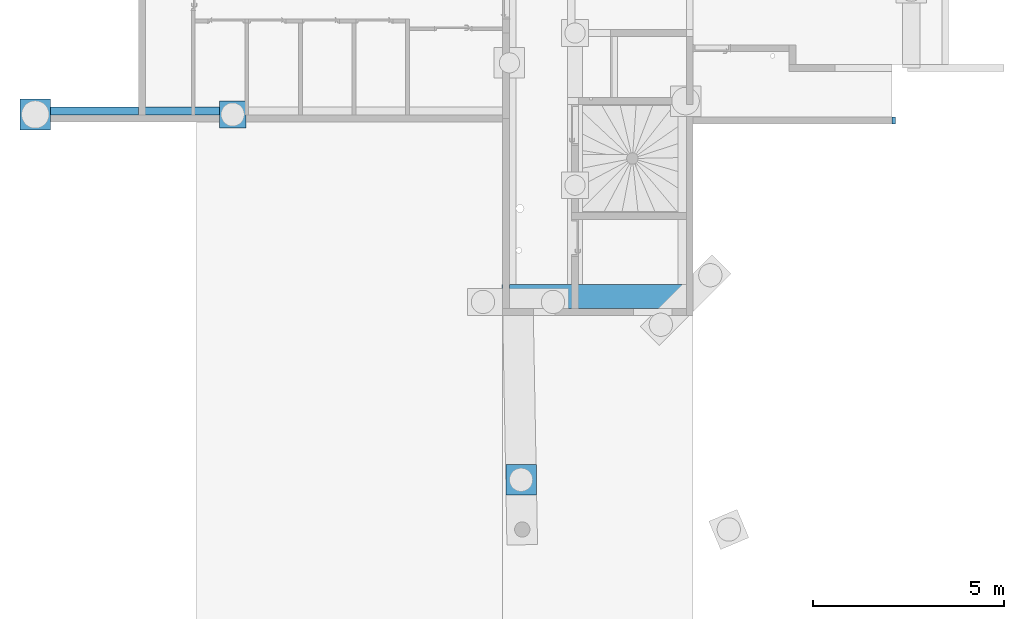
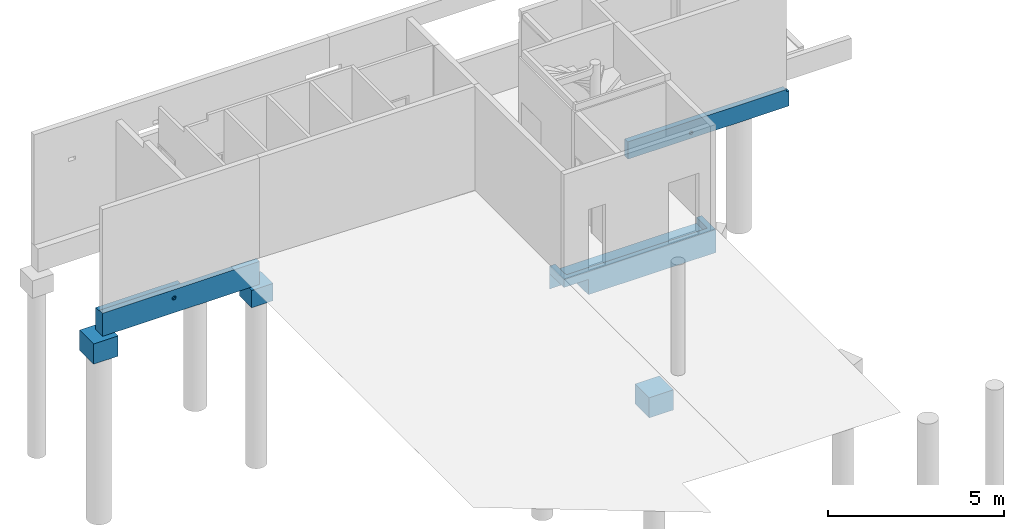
# One storey, part 9 of 14: 3 beams, 3 slabs.
"""IFC2X3 building model written with IfcOpenShell, lengths in centimetres."""

from ifc_helpers import new_model, entity, si_unit, converted_unit, derived_unit, direction, frame, origin, place, context, subcontext, project, spatial, faceted_brep, material, material_list, type_object, element, save


model = new_model("IFC2X3")

# Units and contexts
model_context = context("Model", 3, precision=0.001, world=origin(), true_north=direction((6.12303176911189e-17, 1.0)))
body_context = subcontext(model_context, "Body", "Model", "MODEL_VIEW")
ifc_project = project(units=[si_unit("LENGTHUNIT", "METRE", prefix="CENTI"), si_unit("AREAUNIT", "SQUARE_METRE"), si_unit("VOLUMEUNIT", "CUBIC_METRE"), converted_unit("PLANEANGLEUNIT", "DEGREE", entity("IfcRatioMeasure", 0.0174532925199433), si_unit("PLANEANGLEUNIT", "RADIAN"), dimensions=[0, 0, 0, 0, 0, 0, 0]), si_unit("MASSUNIT", "GRAM", prefix="KILO"), derived_unit("MASSDENSITYUNIT", [(si_unit("MASSUNIT", "GRAM", prefix="KILO"), 1), (si_unit("LENGTHUNIT", "METRE"), -3)]), si_unit("TIMEUNIT", "SECOND"), si_unit("FREQUENCYUNIT", "HERTZ"), si_unit("THERMODYNAMICTEMPERATUREUNIT", "DEGREE_CELSIUS"), derived_unit("THERMALTRANSMITTANCEUNIT", [(si_unit("MASSUNIT", "GRAM", prefix="KILO"), 1), (si_unit("THERMODYNAMICTEMPERATUREUNIT", "KELVIN"), -1), (si_unit("TIMEUNIT", "SECOND"), -3)]), derived_unit("VOLUMETRICFLOWRATEUNIT", [(si_unit("LENGTHUNIT", "METRE"), 3), (si_unit("TIMEUNIT", "SECOND"), -1)]), si_unit("ELECTRICCURRENTUNIT", "AMPERE"), si_unit("ELECTRICVOLTAGEUNIT", "VOLT"), si_unit("POWERUNIT", "WATT"), si_unit("FORCEUNIT", "NEWTON"), si_unit("ILLUMINANCEUNIT", "LUX"), si_unit("LUMINOUSFLUXUNIT", "LUMEN"), si_unit("LUMINOUSINTENSITYUNIT", "CANDELA"), derived_unit("USERDEFINED", [(si_unit("MASSUNIT", "GRAM", prefix="KILO"), -1), (si_unit("LENGTHUNIT", "METRE"), -2), (si_unit("TIMEUNIT", "SECOND"), 3), (si_unit("LUMINOUSFLUXUNIT", "LUMEN"), 1)]), derived_unit("LINEARVELOCITYUNIT", [(si_unit("LENGTHUNIT", "METRE"), 1), (si_unit("TIMEUNIT", "SECOND"), -1)]), si_unit("PRESSUREUNIT", "PASCAL"), derived_unit("USERDEFINED", [(si_unit("LENGTHUNIT", "METRE"), -2), (si_unit("MASSUNIT", "GRAM", prefix="KILO"), 1), (si_unit("TIMEUNIT", "SECOND"), -2)])], contexts=[model_context])

# Site, building, storey
site_placement = place(None, origin())
site = spatial("IfcSite", under=ifc_project, at=site_placement, Name="Default", CompositionType="ELEMENT")
building_placement = place(site_placement, origin())
building = spatial("IfcBuilding", under=site, at=building_placement, Name="CAGE 03", CompositionType="ELEMENT")
storey_placement = place(building_placement, frame((0.0, 0.0, -42.0)))
storey = spatial("IfcBuildingStorey", under=building, at=storey_placement, Name="+3.58", CompositionType="ELEMENT", Elevation=-42.0000000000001)

# Beams
ifc_material_1 = material(Name="Béton, C25/30")
ifc_material_2 = material(Name="<Unnamed>")
ifc_material_list = material_list([ifc_material_1, ifc_material_2])
beam_type_1 = type_object("IfcBeamType", Name="40x80ht", PredefinedType="BEAM", material=ifc_material_list)
beam_1_placement = place(storey_placement, frame((8789.36582014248, 4886.66066607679, -80.0)))
element("IfcBeam", 1, at=beam_1_placement, inside=storey, type_object=beam_type_1, material=ifc_material_1, Name="BBGO-Poutre rect:40x80ht", ObjectType="BBGO-Poutre rect:40x80ht", context=body_context, shape_type="Brep", body=[
    faceted_brep([(0.0, 40.0, 0.0), (0.0, 0.0, 0.0), (0.0, 0.0, 80.0), (0.0, 18.0, 80.0), (0.0, 18.0, 76.0), (0.0, 40.0, 76.0), (515.0, 0.0, 80.0), (241.246504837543, 0.0, 51.074862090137), (515.0, 0.0, 0.0), (240.980083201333, 0.0, 52.4142541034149), (240.713661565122, 0.0, 53.7536461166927), (239.954956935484, 0.0, 54.8891278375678), (239.196252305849, 0.0, 56.0246095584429), (238.060770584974, 0.0, 56.7833141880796), (236.925288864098, 0.0, 57.542018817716), (235.58589685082, 0.0, 57.8084404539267), (234.246504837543, 0.0, 58.074862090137), (232.907112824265, 0.0, 57.8084404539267), (231.567720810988, 0.0, 57.542018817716), (230.432239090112, 0.0, 56.7833141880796), (229.296757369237, 0.0, 56.0246095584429), (228.538052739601, 0.0, 54.8891278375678), (227.779348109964, 0.0, 53.7536461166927), (227.592423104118, 0.0, 52.8139106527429), (227.246504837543, 0.0, 51.074862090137), (234.246504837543, 0.0, 44.074862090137), (232.907112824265, 0.0, 44.3412837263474), (227.512926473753, 0.0, 49.7354700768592), (227.779348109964, 0.0, 48.3960780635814), (228.538052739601, 0.0, 47.2605963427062), (229.296757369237, 0.0, 46.1251146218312), (230.432239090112, 0.0, 45.3664099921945), (231.567720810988, 0.0, 44.607705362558), (240.980083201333, 0.0, 49.7354700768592), (240.713661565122, 0.0, 48.3960780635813), (239.954956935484, 0.0, 47.2605963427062), (239.196252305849, 0.0, 46.1251146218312), (238.060770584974, 0.0, 45.3664099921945), (236.925288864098, 0.0, 44.607705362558), (235.58589685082, 0.0, 44.3412837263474), (515.0, 40.0, 0.0), (269.0, 40.0, 60.0), (240.713661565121, 40.0, 48.3960780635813), (240.980083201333, 40.0, 49.7354700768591), (241.246504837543, 40.0, 51.074862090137), (240.90058659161, 40.0, 52.8139105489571), (239.954956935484, 40.0, 47.2605963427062), (239.196252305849, 40.0, 46.1251146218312), (238.060770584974, 40.0, 45.3664099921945), (236.925288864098, 40.0, 44.607705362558), (515.0, 40.0, 60.0), (240.713661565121, 40.0, 53.7536461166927), (239.954956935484, 40.0, 54.8891278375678), (239.196252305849, 40.0, 56.0246095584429), (269.0, 40.0, 76.0), (235.58589685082, 40.0, 44.3412837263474), (234.246504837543, 40.0, 44.074862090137), (232.907112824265, 40.0, 44.3412837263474), (231.567720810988, 40.0, 44.607705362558), (230.432239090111, 40.0, 45.3664099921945), (229.296757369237, 40.0, 46.1251146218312), (228.538052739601, 40.0, 47.2605963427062), (227.779348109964, 40.0, 48.3960780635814), (227.592423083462, 40.0, 49.3358136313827), (227.246504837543, 40.0, 51.0748620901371), (231.567720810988, 40.0, 57.542018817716), (230.432239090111, 40.0, 56.7833141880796), (229.296757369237, 40.0, 56.0246095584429), (228.5380527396, 40.0, 54.8891278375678), (227.512926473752, 40.0, 52.4142541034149), (227.779348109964, 40.0, 53.7536461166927), (238.060770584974, 40.0, 56.7833141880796), (236.925288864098, 40.0, 57.542018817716), (235.58589685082, 40.0, 57.8084404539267), (234.246504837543, 40.0, 58.074862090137), (232.907112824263, 40.0, 57.8084404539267), (515.0, 18.0, 80.0), (269.0, 18.0, 80.0), (269.0, 18.0, 60.0), (515.0, 18.0, 60.0), (269.0, 18.0, 76.0)], [[[0, 1, 2, 3, 4, 5]], [[6, 7, 8]], [[6, 9, 7]], [[6, 10, 9]], [[6, 11, 10]], [[6, 12, 11]], [[6, 13, 12]], [[6, 14, 13]], [[6, 15, 14]], [[6, 16, 15]], [[16, 6, 2]], [[2, 17, 16]], [[2, 18, 17]], [[2, 19, 18]], [[2, 20, 19]], [[2, 21, 20]], [[2, 22, 21]], [[2, 23, 22]], [[2, 24, 23]], [[1, 24, 2]], [[8, 25, 1]], [[1, 25, 26]], [[1, 27, 24]], [[1, 28, 27]], [[1, 29, 28]], [[1, 30, 29]], [[1, 31, 30]], [[1, 32, 31]], [[1, 26, 32]], [[8, 7, 33]], [[8, 33, 34]], [[8, 34, 35]], [[8, 35, 36]], [[8, 36, 37]], [[8, 37, 38]], [[8, 38, 39]], [[8, 39, 25]], [[40, 8, 1, 0]], [[41, 42, 43]], [[41, 43, 44]], [[41, 44, 45]], [[41, 46, 42]], [[41, 47, 46]], [[41, 48, 47]], [[41, 49, 48]], [[40, 49, 41]], [[50, 40, 41]], [[41, 45, 51]], [[41, 51, 52]], [[41, 52, 53]], [[54, 41, 53]], [[40, 55, 49]], [[40, 56, 55]], [[56, 40, 0]], [[0, 57, 56]], [[0, 58, 57]], [[0, 59, 58]], [[0, 60, 59]], [[0, 61, 60]], [[0, 62, 61]], [[0, 63, 62]], [[0, 64, 63]], [[5, 64, 0]], [[65, 5, 54]], [[5, 65, 66]], [[5, 66, 67]], [[5, 67, 68]], [[5, 69, 64]], [[5, 70, 69]], [[5, 68, 70]], [[54, 53, 71]], [[54, 71, 72]], [[54, 72, 73]], [[54, 73, 74]], [[54, 74, 75]], [[54, 75, 65]], [[6, 76, 77, 3, 2]], [[78, 79, 50, 41]], [[78, 80, 4, 3, 77, 76, 79]], [[80, 78, 41, 54]], [[76, 6, 8, 40, 50, 79]], [[36, 35, 34, 42, 46, 47]], [[37, 36, 47, 48, 49, 38]], [[26, 25, 56, 57, 58, 32]], [[39, 38, 49, 55, 56, 25]], [[34, 33, 7, 44, 43, 42]], [[31, 32, 58, 59, 60, 30]], [[27, 28, 62, 63, 64, 24]], [[29, 30, 60, 61, 62, 28]], [[19, 20, 67, 66, 65, 18]], [[15, 16, 74, 73, 72, 14]], [[17, 18, 65, 75, 74, 16]], [[69, 70, 22, 23, 24, 64]], [[68, 67, 20, 21, 22, 70]], [[13, 14, 72, 71, 53, 12]], [[9, 10, 51, 45, 44, 7]], [[11, 12, 53, 52, 51, 10]], [[4, 80, 54, 5]]]),
])
beam_type_2 = type_object("IfcBeamType", Name="BBGO-Poutre rect:80x80ht", PredefinedType="BEAM")
beam_2_placement = place(storey_placement, frame((10008.8991534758, 4381.66066607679, -85.0)))
element("IfcBeam", 2, at=beam_2_placement, inside=storey, type_object=beam_type_2, material=ifc_material_1, Name="BBGO-Poutre rect:80x80ht", ObjectType="BBGO-Poutre rect:80x80ht", context=body_context, shape_type="Brep", body=[
    faceted_brep([(499.46666666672, 0.0, 80.0), (499.46666666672, 0.0, 0.0), (499.46666666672, 80.0, 0.0), (499.46666666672, 80.0, 80.0), (481.466666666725, 0.0, 80.0), (1.46666666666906, 0.0, 80.0), (1.46666666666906, 0.0, 53.0), (81.4801099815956, 0.0, 53.0), (81.4801099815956, 0.0, 0.0), (80.0134433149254, 80.0, 0.0), (170.466666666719, 80.0, 0.0), (210.466666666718, 80.0, 0.0), (459.466666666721, 80.0, 0.0), (80.0134433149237, 80.0, 53.0), (40.0067216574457, 80.0, 53.0), (40.0067216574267, 80.0, 0.0), (36.4666666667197, 80.0, 0.0), (1.46666666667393, 80.0, 0.0), (0.0, 80.0, 0.0), (0.0, 80.0, 80.0), (1.46666666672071, 80.0, 80.0), (19.4666666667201, 80.0, 80.0), (19.4666666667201, 80.0, 60.0), (36.4666666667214, 80.0, 60.0), (170.466666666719, 80.0, 60.0), (210.466666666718, 80.0, 60.0), (459.466666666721, 80.0, 60.0), (481.466666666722, 80.0, 60.0), (481.466666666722, 80.0, 80.0), (481.466666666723, 18.0, 80.0), (19.4666666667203, 18.0, 80.0), (19.4666666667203, 18.0, 60.0), (481.466666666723, 18.0, 60.0), (0.0134421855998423, 79.2667898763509, 0.0), (0.0134421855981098, 79.2667898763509, 53.0)], [[[0, 1, 2, 3]], [[1, 0, 4, 5, 6, 7, 8]], [[2, 1, 8, 9, 10, 11, 12]], [[3, 2, 12, 11, 10, 9, 13, 14, 15, 16, 17, 18, 19, 20, 21, 22, 23, 24, 25, 26, 27, 28]], [[0, 3, 28, 29, 30, 21, 20, 19, 5, 4]], [[31, 32, 27, 26, 25, 24, 23, 22]], [[32, 29, 28, 27]], [[32, 31, 30, 29]], [[30, 31, 22, 21]], [[5, 19, 18, 33, 34, 6]], [[14, 34, 33, 15]], [[7, 13, 9, 8]], [[34, 14, 13, 7, 6]], [[33, 18, 17, 16, 15]]]),
])
beam_type_3 = type_object("IfcBeamType", Name="BBGO-Poutre rect:18x60ht", PredefinedType="BEAM")
beam_3_placement = place(storey_placement, frame((10508.3658201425, 4881.66066607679, -65.0)))
element("IfcBeam", 3, at=beam_3_placement, inside=storey, type_object=beam_type_3, material=ifc_material_1, Name="BBGO-Poutre rect:18x60ht", ObjectType="BBGO-Poutre rect:18x60ht", context=body_context, shape_type="Brep", body=[
    faceted_brep([(520.0, 0.0, 60.0), (211.517362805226, 0.0, 24.1664467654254), (212.384484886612, 0.0, 23.0791100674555), (213.251606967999, 0.0, 21.991773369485), (520.0, 0.0, 52.0), (210.264335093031, 0.0, 24.7698731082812), (209.011307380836, 0.0, 25.3732994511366), (0.0, 0.0, 60.0), (207.620551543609, 0.0, 25.3732994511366), (206.229795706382, 0.0, 25.3732994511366), (204.976767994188, 0.0, 24.7698731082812), (203.723740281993, 0.0, 24.1664467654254), (202.856618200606, 0.0, 23.0791100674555), (201.98949611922, 0.0, 21.9917733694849), (201.739684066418, 0.0, 20.8972752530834), (201.37055154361, 0.0, 19.2800000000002), (0.0, 0.0, 0.0), (201.680023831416, 0.0, 17.9241133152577), (201.98949611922, 0.0, 16.5682266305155), (202.856618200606, 0.0, 15.4808899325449), (203.723740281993, 0.0, 14.393553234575), (204.976767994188, 0.0, 13.7901268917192), (206.229795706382, 0.0, 13.1867005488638), (207.620551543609, 0.0, 13.1867005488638), (209.011307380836, 0.0, 13.1867005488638), (520.0, 0.0, 0.0), (529.0, 0.0, 52.0), (213.870551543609, 0.0, 19.2800000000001), (213.501419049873, 0.0, 17.6627248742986), (529.0, 0.0, 0.0), (213.251606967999, 0.0, 16.5682266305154), (212.384484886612, 0.0, 15.4808899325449), (211.517362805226, 0.0, 14.393553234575), (210.264335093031, 0.0, 13.7901268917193), (213.561079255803, 0.0, 20.6358866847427), (520.0, 18.0, 0.0), (529.0, 18.0, 0.0), (0.0, 18.0, 0.0), (520.0, 18.0, 52.0), (213.870551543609, 18.0, 19.2800000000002), (213.501419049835, 18.0, 20.8972751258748), (529.0, 18.0, 52.0), (213.251606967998, 18.0, 21.991773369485), (520.0, 18.0, 60.0), (213.561079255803, 18.0, 17.9241133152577), (213.251606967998, 18.0, 16.5682266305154), (212.384484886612, 18.0, 15.4808899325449), (211.517362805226, 18.0, 14.393553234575), (210.264335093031, 18.0, 13.7901268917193), (209.011307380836, 18.0, 13.1867005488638), (207.620551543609, 18.0, 13.1867005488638), (206.229795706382, 18.0, 13.1867005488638), (204.976767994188, 18.0, 13.7901268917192), (203.723740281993, 18.0, 14.393553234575), (202.856618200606, 18.0, 15.4808899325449), (201.98949611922, 18.0, 16.5682266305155), (201.739684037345, 18.0, 17.6627248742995), (201.37055154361, 18.0, 19.2800000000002), (0.0, 18.0, 40.0), (201.680023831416, 18.0, 20.6358866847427), (201.98949611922, 18.0, 21.9917733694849), (0.0, 18.0, 60.0), (209.011307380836, 18.0, 25.3732994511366), (207.620551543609, 18.0, 25.3732994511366), (202.856618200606, 18.0, 23.0791100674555), (203.723740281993, 18.0, 24.1664467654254), (204.976767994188, 18.0, 24.7698731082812), (206.229795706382, 18.0, 25.3732994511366), (212.384484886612, 18.0, 23.0791100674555), (211.517362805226, 18.0, 24.1664467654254), (210.264335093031, 18.0, 24.7698731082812)], [[[0, 1, 2]], [[0, 2, 3]], [[4, 0, 3]], [[0, 5, 1]], [[0, 6, 5]], [[0, 7, 6]], [[7, 8, 6]], [[7, 9, 8]], [[7, 10, 9]], [[7, 11, 10]], [[7, 12, 11]], [[7, 13, 12]], [[7, 14, 13]], [[7, 15, 14]], [[7, 16, 15]], [[16, 17, 15]], [[16, 18, 17]], [[16, 19, 18]], [[16, 20, 19]], [[16, 21, 20]], [[16, 22, 21]], [[16, 23, 22]], [[16, 24, 23]], [[25, 24, 16]], [[25, 26, 4]], [[25, 4, 27]], [[25, 27, 28]], [[25, 29, 26]], [[25, 28, 30]], [[25, 30, 31]], [[25, 31, 32]], [[25, 32, 33]], [[25, 33, 24]], [[4, 3, 34]], [[4, 34, 27]], [[35, 36, 29, 25, 16, 37]], [[38, 35, 39]], [[38, 39, 40]], [[38, 41, 35]], [[38, 40, 42]], [[42, 43, 38]], [[41, 36, 35]], [[35, 44, 39]], [[35, 45, 44]], [[35, 46, 45]], [[35, 47, 46]], [[35, 48, 47]], [[35, 49, 48]], [[35, 37, 49]], [[37, 50, 49]], [[37, 51, 50]], [[37, 52, 51]], [[37, 53, 52]], [[37, 54, 53]], [[37, 55, 54]], [[37, 56, 55]], [[37, 57, 56]], [[58, 57, 37]], [[58, 59, 57]], [[58, 60, 59]], [[60, 58, 61]], [[43, 62, 61]], [[61, 62, 63]], [[61, 64, 60]], [[61, 65, 64]], [[61, 66, 65]], [[61, 67, 66]], [[61, 63, 67]], [[43, 42, 68]], [[43, 68, 69]], [[43, 69, 70]], [[43, 70, 62]], [[7, 0, 43, 61]], [[58, 37, 16, 7, 61]], [[0, 4, 38, 43]], [[41, 38, 4, 26]], [[29, 36, 41, 26]], [[28, 27, 39, 44, 45, 30]], [[31, 30, 45, 46, 47, 32]], [[17, 18, 55, 56, 57, 15]], [[33, 32, 47, 48, 49, 24]], [[22, 23, 24, 49, 50, 51]], [[21, 22, 51, 52, 53, 20]], [[54, 55, 18, 19, 20, 53]], [[13, 14, 15, 57, 59, 60]], [[64, 65, 11, 12, 13, 60]], [[66, 67, 9, 10, 11, 65]], [[6, 8, 9, 67, 63, 62]], [[5, 6, 62, 70, 69, 1]], [[34, 3, 42, 40, 39, 27]], [[2, 1, 69, 68, 42, 3]]]),
])

# Slabs
slab_1_placement = place(storey_placement, frame((10018.3658201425, 3911.66066607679, -202.0)))
element("IfcSlab", 4, at=slab_1_placement, inside=storey, material=ifc_material_1, Name="M_Base-Rectangulaire:80x80x70ht", ObjectType="M_Base-Rectangulaire:80x80x70ht", PredefinedType="BASESLAB", context=body_context, shape_type="Brep", body=[
    faceted_brep([(80.0, 80.0, 70.0), (0.0, 80.0, 70.0), (0.0, 0.0, 70.0), (80.0, 0.0, 70.0), (0.0, 0.0, 0.0), (9.50000000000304, 40.0, 0.0), (11.7333107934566, 34.6083107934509, 0.0), (0.0, 80.0, 0.0), (13.9666215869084, 29.216621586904, 0.0), (16.1999323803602, 23.8249323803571, 0.0), (18.4332431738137, 18.4332431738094, 0.0), (23.8249323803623, 16.1999323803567, 0.0), (29.2166215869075, 13.966621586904, 0.0), (34.6083107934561, 11.7333107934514, 0.0), (40.0, 9.49999999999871, 0.0), (80.0, 0.0, 0.0), (11.7333107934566, 45.3916892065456, 0.0), (13.9666215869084, 50.7833784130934, 0.0), (16.1999323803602, 56.1750676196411, 0.0), (18.4332431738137, 61.566756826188, 0.0), (23.8249323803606, 63.8000676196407, 0.0), (29.2166215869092, 66.0333784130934, 0.0), (34.6083107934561, 68.266689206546, 0.0), (40.0, 70.4999999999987, 0.0), (80.0, 80.0, 0.0), (70.500000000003, 40.0, 0.0), (68.2666892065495, 45.3916892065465, 0.0), (66.0333784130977, 50.7833784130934, 0.0), (63.8000676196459, 56.175067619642, 0.0), (61.5667568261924, 61.5667568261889, 0.0), (56.1750676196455, 63.8000676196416, 0.0), (50.7833784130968, 66.0333784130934, 0.0), (45.3916892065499, 68.266689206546, 0.0), (45.3916892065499, 11.7333107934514, 0.0), (50.7833784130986, 13.9666215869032, 0.0), (56.1750676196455, 16.1999323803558, 0.0), (61.5667568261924, 18.4332431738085, 0.0), (63.8000676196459, 23.8249323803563, 0.0), (66.0333784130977, 29.216621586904, 0.0), (68.2666892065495, 34.6083107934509, 0.0), (18.4332431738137, 18.4332431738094, 5.0), (23.8249323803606, 16.1999323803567, 5.0), (29.2166215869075, 13.966621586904, 5.0), (34.6083107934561, 11.7333107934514, 5.0), (40.0, 9.49999999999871, 5.0), (61.5667568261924, 18.4332431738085, 5.0), (63.8000676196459, 23.8249323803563, 5.0), (66.0333784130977, 29.216621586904, 5.0), (67.6573928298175, 33.1373392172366, 5.0), (70.500000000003, 40.0, 5.0), (9.50000000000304, 40.0, 5.0), (12.3426071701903, 33.1373392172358, 5.0), (15.1852143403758, 26.2746784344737, 5.0), (45.3916892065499, 11.7333107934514, 5.0), (50.7833784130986, 13.9666215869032, 5.0), (56.1750676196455, 16.1999323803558, 5.0), (61.5667568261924, 61.566756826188, 5.0), (56.1750676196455, 63.8000676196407, 5.0), (50.7833784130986, 66.0333784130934, 5.0), (45.3916892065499, 68.266689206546, 5.0), (40.0, 70.4999999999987, 5.0), (18.4332431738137, 61.566756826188, 5.0), (16.1999323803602, 56.1750676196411, 5.0), (13.9666215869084, 50.7833784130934, 5.0), (12.3426071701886, 46.8626607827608, 5.0), (67.6573928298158, 46.8626607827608, 5.0), (64.8147856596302, 53.7253215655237, 5.0), (34.6083107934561, 68.266689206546, 5.0), (29.2166215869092, 66.0333784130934, 5.0), (23.8249323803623, 63.8000676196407, 5.0)], [[[0, 1, 2, 3]], [[4, 5, 6]], [[5, 4, 7]], [[4, 6, 8]], [[4, 8, 9]], [[4, 9, 10]], [[4, 10, 11]], [[4, 11, 12]], [[4, 12, 13]], [[4, 13, 14]], [[14, 15, 4]], [[7, 16, 5]], [[7, 17, 16]], [[7, 18, 17]], [[7, 19, 18]], [[7, 20, 19]], [[7, 21, 20]], [[7, 22, 21]], [[7, 23, 22]], [[23, 7, 24]], [[25, 24, 15]], [[24, 25, 26]], [[24, 26, 27]], [[24, 27, 28]], [[24, 28, 29]], [[24, 29, 30]], [[24, 30, 31]], [[24, 31, 32]], [[24, 32, 23]], [[15, 14, 33]], [[15, 33, 34]], [[15, 34, 35]], [[15, 35, 36]], [[15, 36, 37]], [[15, 37, 38]], [[15, 38, 39]], [[15, 39, 25]], [[2, 1, 7, 4]], [[3, 2, 4, 15]], [[0, 3, 15, 24]], [[1, 0, 24, 7]], [[10, 40, 41, 42, 43, 44, 14, 13, 12, 11]], [[39, 38, 37, 36, 45, 46, 47, 48, 49, 25]], [[10, 9, 8, 6, 5, 50, 51, 52, 40]], [[33, 14, 44, 53, 54, 55, 45, 36, 35, 34]], [[29, 56, 57, 58, 59, 60, 23, 32, 31, 30]], [[16, 17, 18, 19, 61, 62, 63, 64, 50, 5]], [[29, 28, 27, 26, 25, 49, 65, 66, 56]], [[22, 23, 60, 67, 68, 69, 61, 19, 20, 21]], [[60, 59, 58, 57, 56, 66, 65, 49, 48, 47, 46, 45, 55, 54, 53, 44, 43, 42, 41, 40, 52, 51, 50, 64, 63, 62, 61, 69, 68, 67]]]),
])
slab_2_placement = place(storey_placement, frame((8748.36582014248, 4866.66066607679, -150.0)))
element("IfcSlab", 5, at=slab_2_placement, inside=storey, material=ifc_material_1, Name="M_Base-Rectangulaire:80x80x70ht", ObjectType="M_Base-Rectangulaire:80x80x70ht", PredefinedType="BASESLAB", context=body_context, shape_type="Brep", body=[
    faceted_brep([(80.0, 80.0, 70.0), (0.0, 80.0, 70.0), (0.0, 60.0, 70.0), (0.0, 20.0, 70.0), (0.0, 0.0, 70.0), (80.0, 0.0, 70.0), (0.0, 0.0, 0.0), (4.0, 40.0, 0.0), (6.34891974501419, 33.9367392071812, 0.0), (0.0, 80.0, 0.0), (8.69783949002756, 27.8734784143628, 0.0), (11.0467592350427, 21.8102176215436, 0.0), (13.395678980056, 15.7469568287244, 0.0), (20.8771744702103, 12.8486100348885, 0.0), (28.3586699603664, 9.95026324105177, 0.0), (35.8401654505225, 7.05191644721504, 0.0), (43.3216609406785, 4.15356965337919, 0.0), (80.0, 0.0, 0.0), (6.34891974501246, 46.0632607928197, 0.0), (8.69783949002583, 52.126521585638, 0.0), (11.0467592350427, 58.1897823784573, 0.0), (13.395678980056, 64.2530431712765, 0.0), (19.2163439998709, 67.1513899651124, 0.0), (25.0370090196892, 70.0497367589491, 0.0), (30.857674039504, 72.948083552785, 0.0), (36.6783390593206, 75.8464303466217, 0.0), (80.0, 80.0, 0.0), (76.0, 40.0, 0.0), (73.6510802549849, 46.0632607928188, 0.0), (71.3021605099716, 52.126521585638, 0.0), (68.9532407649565, 58.1897823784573, 0.0), (66.6043210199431, 64.2530431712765, 0.0), (59.1228255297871, 67.1513899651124, 0.0), (51.641330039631, 70.0497367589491, 0.0), (44.1598345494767, 72.9480835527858, 0.0), (49.1423259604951, 7.05191644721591, 0.0), (54.9629909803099, 9.95026324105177, 0.0), (60.7836560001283, 12.8486100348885, 0.0), (66.6043210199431, 15.7469568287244, 0.0), (68.9532407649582, 21.8102176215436, 0.0), (71.3021605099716, 27.8734784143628, 0.0), (73.6510802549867, 33.9367392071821, 0.0), (66.6043210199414, 15.7469568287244, 5.0), (59.1228255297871, 12.8486100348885, 5.0), (51.641330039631, 9.95026324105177, 5.0), (44.1598345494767, 7.05191644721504, 5.0), (36.6783390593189, 4.15356965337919, 5.0), (30.857674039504, 7.05191644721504, 5.0), (25.0370090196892, 9.95026324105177, 5.0), (19.2163439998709, 12.8486100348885, 5.0), (13.3956789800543, 15.7469568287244, 5.0), (11.0467592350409, 21.8102176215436, 5.0), (8.69783949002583, 27.8734784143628, 5.0), (6.92390641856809, 32.4525275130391, 5.0), (4.0, 40.0, 5.0), (6.92390641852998, 47.5474724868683, 5.0), (8.69783949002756, 52.126521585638, 5.0), (11.0467592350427, 58.1897823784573, 5.0), (13.3956789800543, 64.2530431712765, 5.0), (20.8771744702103, 67.1513899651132, 5.0), (28.3586699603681, 70.0497367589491, 5.0), (35.8401654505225, 72.948083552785, 5.0), (43.3216609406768, 75.8464303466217, 5.0), (49.1423259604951, 72.948083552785, 5.0), (54.9629909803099, 70.0497367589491, 5.0), (60.7836560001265, 67.1513899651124, 5.0), (66.6043210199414, 64.2530431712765, 5.0), (68.9532407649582, 58.1897823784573, 5.0), (71.3021605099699, 52.126521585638, 5.0), (73.0760935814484, 47.5474724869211, 5.0), (76.0, 40.0, 5.0), (73.0760935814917, 32.452527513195, 5.0), (71.3021605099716, 27.8734784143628, 5.0), (68.9532407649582, 21.8102176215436, 5.0)], [[[0, 1, 2, 3, 4, 5]], [[6, 7, 8]], [[7, 6, 9]], [[6, 8, 10]], [[6, 10, 11]], [[6, 11, 12]], [[6, 12, 13]], [[6, 13, 14]], [[6, 14, 15]], [[6, 15, 16]], [[16, 17, 6]], [[9, 18, 7]], [[9, 19, 18]], [[9, 20, 19]], [[9, 21, 20]], [[9, 22, 21]], [[9, 23, 22]], [[9, 24, 23]], [[9, 25, 24]], [[25, 9, 26]], [[27, 26, 17]], [[26, 27, 28]], [[26, 28, 29]], [[26, 29, 30]], [[26, 30, 31]], [[26, 31, 32]], [[26, 32, 33]], [[26, 33, 34]], [[26, 34, 25]], [[17, 16, 35]], [[17, 35, 36]], [[17, 36, 37]], [[17, 37, 38]], [[17, 38, 39]], [[17, 39, 40]], [[17, 40, 41]], [[17, 41, 27]], [[4, 3, 2, 1, 9, 6]], [[5, 4, 6, 17]], [[0, 5, 17, 26]], [[1, 0, 26, 9]], [[42, 43, 44, 45, 46, 47, 48, 49, 50, 51, 52, 53, 54, 55, 56, 57, 58, 59, 60, 61, 62, 63, 64, 65, 66, 67, 68, 69, 70, 71, 72, 73]], [[8, 7, 54, 53, 52, 51, 50, 12, 11, 10]], [[41, 40, 39, 38, 42, 73, 72, 71, 70, 27]], [[50, 49, 12]], [[49, 48, 13]], [[38, 37, 42]], [[44, 35, 45]], [[37, 43, 42]], [[16, 15, 46]], [[14, 13, 48]], [[49, 13, 12]], [[37, 36, 43]], [[43, 36, 44]], [[14, 47, 15]], [[16, 45, 35]], [[44, 36, 35]], [[46, 15, 47]], [[14, 48, 47]], [[16, 46, 45]], [[28, 27, 70, 69, 68, 67, 66, 31, 30, 29]], [[18, 19, 20, 21, 58, 57, 56, 55, 54, 7]], [[66, 65, 31]], [[65, 64, 32]], [[21, 22, 58]], [[60, 24, 61]], [[22, 59, 58]], [[25, 34, 62]], [[33, 32, 64]], [[65, 32, 31]], [[22, 23, 59]], [[59, 23, 60]], [[33, 63, 34]], [[25, 61, 24]], [[60, 23, 24]], [[62, 34, 63]], [[33, 64, 63]], [[25, 62, 61]]]),
])
slab_3_placement = place(storey_placement, frame((9269.36582014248, 4871.66066607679, -140.0)))
element("IfcSlab", 6, at=slab_3_placement, inside=storey, material=ifc_material_1, Name="M_Base-Rectangulaire:70x70x60ht", ObjectType="M_Base-Rectangulaire:70x70x60ht", PredefinedType="BASESLAB", context=body_context, shape_type="Brep", body=[
    faceted_brep([(70.0, 70.0, 60.0), (0.0, 70.0, 60.0), (0.0, 0.0, 60.0), (70.0, 0.0, 60.0), (0.0, 0.0, 0.0), (4.50000000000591, 35.0, 0.0), (6.73331079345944, 29.6083107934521, 0.0), (0.0, 70.0, 0.0), (8.96662158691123, 24.2166215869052, 0.0), (11.1999323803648, 18.8249323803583, 0.0), (13.4332431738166, 13.4332431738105, 0.0), (18.8249323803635, 11.1999323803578, 0.0), (24.2166215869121, 8.96662158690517, 0.0), (29.608310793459, 6.73331079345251, 0.0), (35.0, 4.49999999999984, 0.0), (70.0, 0.0, 0.0), (6.7333107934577, 40.3916892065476, 0.0), (8.96662158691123, 45.7833784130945, 0.0), (11.1999323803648, 51.1750676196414, 0.0), (13.4332431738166, 56.5667568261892, 0.0), (18.8249323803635, 58.8000676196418, 0.0), (24.2166215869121, 61.0333784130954, 0.0), (29.608310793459, 63.2666892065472, 0.0), (35.0, 65.4999999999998, 0.0), (70.0, 70.0, 0.0), (65.5000000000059, 35.0, 0.0), (63.2666892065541, 40.3916892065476, 0.0), (61.0333784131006, 45.7833784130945, 0.0), (58.800067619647, 51.1750676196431, 0.0), (56.5667568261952, 56.5667568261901, 0.0), (51.1750676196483, 58.8000676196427, 0.0), (45.7833784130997, 61.0333784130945, 0.0), (40.3916892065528, 63.2666892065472, 0.0), (40.3916892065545, 6.73331079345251, 0.0), (45.7833784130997, 8.9666215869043, 0.0), (51.1750676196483, 11.199932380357, 0.0), (56.5667568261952, 13.4332431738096, 0.0), (58.800067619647, 18.8249323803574, 0.0), (61.0333784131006, 24.2166215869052, 0.0), (63.2666892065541, 29.6083107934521, 0.0), (35.0, 65.4999999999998, 5.0), (40.3916892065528, 63.2666892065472, 5.0), (45.7833784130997, 61.0333784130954, 5.0), (51.1750676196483, 58.8000676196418, 5.0), (56.5667568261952, 56.5667568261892, 5.0), (59.8147856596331, 48.7253215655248, 5.0), (62.6573928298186, 41.8626607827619, 5.0), (65.5000000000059, 35.0, 5.0), (62.6573928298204, 28.1373392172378, 5.0), (61.0333784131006, 24.2166215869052, 5.0), (58.800067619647, 18.8249323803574, 5.0), (56.5667568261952, 13.4332431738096, 5.0), (51.1750676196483, 11.199932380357, 5.0), (45.7833784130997, 8.9666215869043, 5.0), (40.3916892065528, 6.73331079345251, 5.0), (35.0, 4.49999999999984, 5.0), (29.608310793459, 6.73331079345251, 5.0), (24.2166215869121, 8.96662158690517, 5.0), (18.8249323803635, 11.1999323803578, 5.0), (13.4332431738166, 13.4332431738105, 5.0), (10.1852143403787, 21.2746784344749, 5.0), (7.34260717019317, 28.1373392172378, 5.0), (4.50000000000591, 35.0, 5.0), (7.34260717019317, 41.8626607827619, 5.0), (8.96662158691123, 45.7833784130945, 5.0), (11.1999323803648, 51.1750676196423, 5.0), (13.4332431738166, 56.5667568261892, 5.0), (18.8249323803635, 58.8000676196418, 5.0), (24.2166215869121, 61.0333784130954, 5.0), (29.6083107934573, 63.2666892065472, 5.0)], [[[0, 1, 2, 3]], [[4, 5, 6]], [[5, 4, 7]], [[4, 6, 8]], [[4, 8, 9]], [[4, 9, 10]], [[4, 10, 11]], [[4, 11, 12]], [[4, 12, 13]], [[4, 13, 14]], [[14, 15, 4]], [[7, 16, 5]], [[7, 17, 16]], [[7, 18, 17]], [[7, 19, 18]], [[7, 20, 19]], [[7, 21, 20]], [[7, 22, 21]], [[7, 23, 22]], [[23, 7, 24]], [[25, 24, 15]], [[24, 25, 26]], [[24, 26, 27]], [[24, 27, 28]], [[24, 28, 29]], [[24, 29, 30]], [[24, 30, 31]], [[24, 31, 32]], [[24, 32, 23]], [[15, 14, 33]], [[15, 33, 34]], [[15, 34, 35]], [[15, 35, 36]], [[15, 36, 37]], [[15, 37, 38]], [[15, 38, 39]], [[15, 39, 25]], [[2, 1, 7, 4]], [[3, 2, 4, 15]], [[0, 3, 15, 24]], [[1, 0, 24, 7]], [[40, 41, 42, 43, 44, 45, 46, 47, 48, 49, 50, 51, 52, 53, 54, 55, 56, 57, 58, 59, 60, 61, 62, 63, 64, 65, 66, 67, 68, 69]], [[10, 59, 58, 57, 56, 55, 14, 13, 12, 11]], [[39, 38, 37, 36, 51, 50, 49, 48, 47, 25]], [[10, 9, 8, 6, 5, 62, 61, 60, 59]], [[33, 14, 55, 54, 53, 52, 51, 36, 35, 34]], [[29, 44, 43, 42, 41, 40, 23, 32, 31, 30]], [[16, 17, 18, 19, 66, 65, 64, 63, 62, 5]], [[29, 28, 27, 26, 25, 47, 46, 45, 44]], [[22, 23, 40, 69, 68, 67, 66, 19, 20, 21]]]),
])

save(model, "model.ifc")
